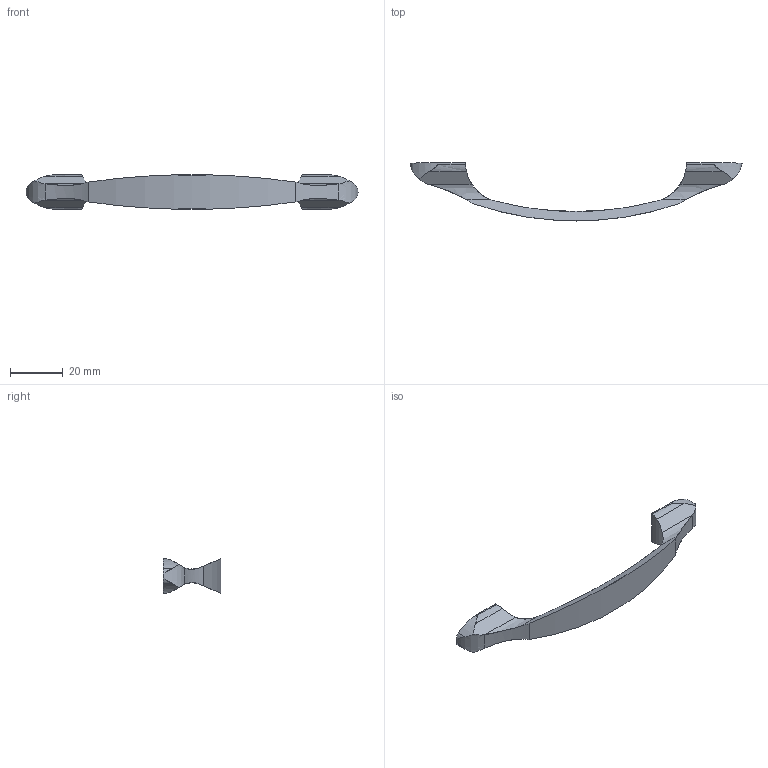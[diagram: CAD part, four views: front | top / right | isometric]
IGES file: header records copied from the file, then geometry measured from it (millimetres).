
Start section: Data from Parasolid IGES Translator 15.0.47, Copyright(c) 2006 Siemens P LM Software. All Rights Reserved.
Global section: file name: 9113225.igs; native system:  By UGS Corp.; preprocessor: XPlus GENERIC/IGES 3.0; author: Noname; organization: Noname; date: 20140122.102918; units: millimetre
Bounding box: 126 x 22 x 13 mm (x, y, z)
Surface area: 4325.1 mm2 (no closed solid volume)
Topology: 0 solids, 0 shells, 44 faces, 240 edges, 238 vertices
Faces by surface type: revolution 30, extrusion 14
